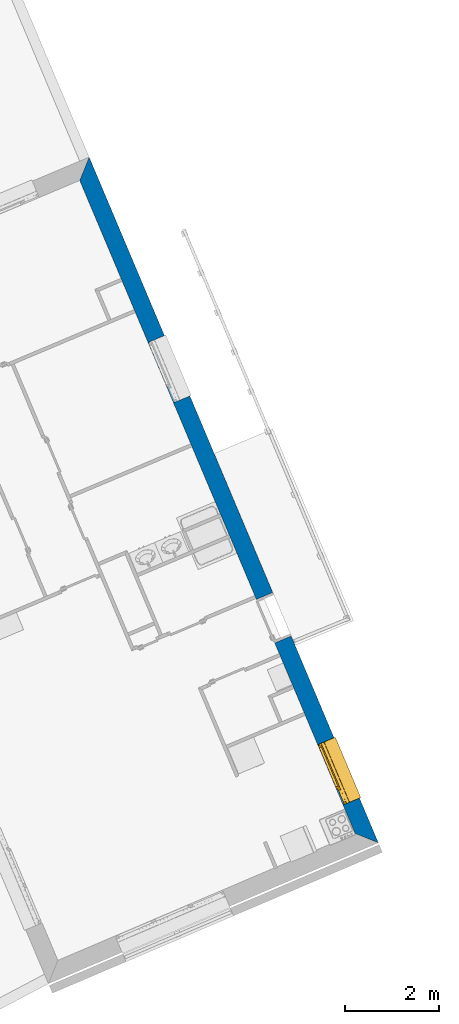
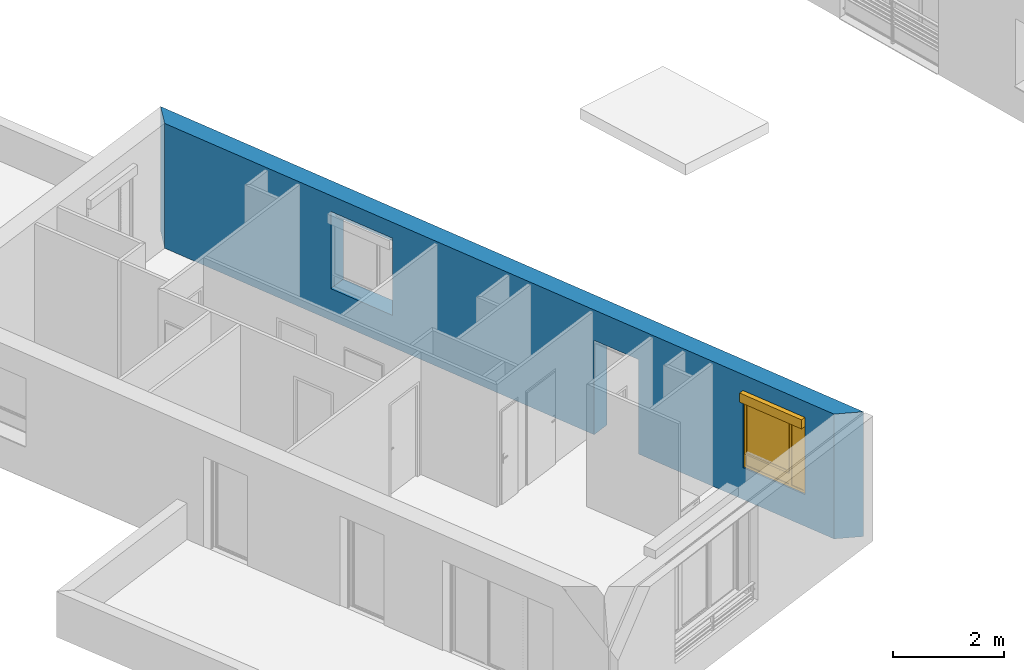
# One storey, part 35 of 121: 1 wall, 1 window, 3 openings.
"""IFC2X3 building model written with IfcOpenShell, lengths in metres."""

from ifc_helpers import new_model, entity, si_unit, converted_unit, derived_unit, money_unit, direction, frame, origin_with_axes, origin_2d_with_axis, place, context, subcontext, project, spatial, polyline, rectangle, outline, extrude, open_shell, faceted_brep, surface_model, source, transform, mapped, material, layer, layer_set, layer_usage, type_object, element, fill, save


model = new_model("IFC2X3")

# Units and contexts
model_context = context("Model", 3, precision=1e-05, world=origin_with_axes(), true_north=direction((0.0, 1.0)))
body_context = subcontext(model_context, "Body", "Model", "MODEL_VIEW")
ifc_project = project(units=[si_unit("LENGTHUNIT", "METRE"), si_unit("AREAUNIT", "SQUARE_METRE"), si_unit("VOLUMEUNIT", "CUBIC_METRE"), converted_unit("PLANEANGLEUNIT", "DEGREE", entity("IfcPlaneAngleMeasure", 0.0174532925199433), si_unit("PLANEANGLEUNIT", "RADIAN"), dimensions=[0, 0, 0, 0, 0, 0, 0]), money_unit("CHF"), converted_unit("TIMEUNIT", "Year", entity("IfcTimeMeasure", 31557600.0), si_unit("TIMEUNIT", "SECOND"), dimensions=[0, 0, 1, 0, 0, 0, 0]), si_unit("MASSUNIT", "GRAM", prefix="KILO"), si_unit("THERMODYNAMICTEMPERATUREUNIT", "DEGREE_CELSIUS"), si_unit("LUMINOUSINTENSITYUNIT", "LUMEN"), si_unit("ENERGYUNIT", "JOULE", prefix="MEGA"), derived_unit("THERMALCONDUCTANCEUNIT", [(si_unit("POWERUNIT", "WATT"), 1), (si_unit("LENGTHUNIT", "METRE"), -1), (si_unit("THERMODYNAMICTEMPERATUREUNIT", "KELVIN"), -1)]), derived_unit("SPECIFICHEATCAPACITYUNIT", [(si_unit("ENERGYUNIT", "JOULE"), 1), (si_unit("MASSUNIT", "GRAM", prefix="KILO"), -1), (si_unit("THERMODYNAMICTEMPERATUREUNIT", "KELVIN"), -1)]), derived_unit("MASSDENSITYUNIT", [(si_unit("MASSUNIT", "GRAM", prefix="KILO"), 1), (si_unit("VOLUMEUNIT", "CUBIC_METRE"), -1)])], contexts=[model_context])

# Site, building, storey
site_placement = place(None, origin_with_axes())
site = spatial("IfcSite", under=ifc_project, at=site_placement, Name="Site", CompositionType="ELEMENT")
building_placement = place(site_placement, origin_with_axes())
building = spatial("IfcBuilding", under=site, at=building_placement, Name="Bâtiment", CompositionType="ELEMENT")
storey_placement = place(building_placement, frame((0.0, 0.0, 2.75), z_axis=(0.0, 0.0, 1.0), x_axis=(1.0, 0.0, 0.0)))
storey = spatial("IfcBuildingStorey", under=building, at=storey_placement, Name="Etage 1", CompositionType="ELEMENT", Elevation=2.75)

# Wall, openings, window
ifc_material_1 = material(Name="Parpaing 312445824")
ifc_layer_1 = layer(ifc_material_1, 0.22, ventilated="UNKNOWN")
ifc_material_2 = material(Name="Isolant styromousse 301821074")
ifc_layer_2 = layer(ifc_material_2, 0.16, ventilated="UNKNOWN")
ifc_layer_set = layer_set([ifc_layer_1, ifc_layer_2], Name="isol int 22+16 0836643197")
ifc_layer_usage = layer_usage(ifc_layer_set, "AXIS2", "NEGATIVE", 0.0)
wall_type = type_object("IfcWallType", Name="isol int 22+16 0836643197 380", PredefinedType="NOTDEFINED")
wall_placement = place(storey_placement, frame((9572.789102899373, -1048.128803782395, 57.7), z_axis=(0.0, 0.0, 1.0), x_axis=(0.3885669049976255, -0.9214205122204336, 0.0)))
wall = element("IfcWallStandardCase", 1, at=wall_placement, inside=storey, type_object=wall_type, material=ifc_layer_usage, Name="Mur-113", context=body_context, shape_type="SweptSolid", body=[
    extrude(outline(polyline([(0.379999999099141, -0.3799999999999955), (15.53325516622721, -0.3799999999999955), (15.91155349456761, 0.0), (-9.952714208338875e-10, 0.0), (0.379999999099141, -0.3799999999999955)])), origin_with_axes(), (0.0, 0.0, 1.0), 2.75),
])
opening_1_placement = place(wall_placement, frame((14.17313174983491, 0.0, 0.7000000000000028), z_axis=(0.0, 0.0, 1.0), x_axis=(1.0, 0.0, 0.0)))
opening_1 = element("IfcOpeningElement", 2, at=opening_1_placement, cuts=wall, Name="Fen-045", context=body_context, shape_type="Brep", body=[
    faceted_brep([(-0.6999999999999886, -0.2199999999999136, 1.5), (0.7000000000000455, -0.2199999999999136, 1.5), (0.7000000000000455, 5.697869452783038, 1.5), (-0.6999999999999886, 5.697869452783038, 1.5), (-0.6999999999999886, -0.2199999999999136, 1.700000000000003), (0.7000000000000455, -0.2199999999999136, 1.700000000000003), (0.7000000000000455, -0.2999999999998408, 1.5), (0.7000000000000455, -0.2999999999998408, 0.0), (0.7000000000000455, 5.697869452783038, 0.0), (-0.6999999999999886, 5.697869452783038, 0.0), (-0.6999999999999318, -0.2999999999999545, 1.5), (-0.6999999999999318, -0.2999999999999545, 0.0), (-0.6999999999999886, -0.4799999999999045, 1.5), (-0.6999999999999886, -0.4799999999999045, 1.700000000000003), (0.7000000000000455, -0.4799999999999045, 1.700000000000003), (0.7000000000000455, -0.4799999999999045, 1.5), (0.7000000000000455, -6.077869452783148, 1.5), (0.7000000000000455, -6.077869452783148, 0.0), (-0.6999999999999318, -6.077869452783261, 0.0), (-0.6999999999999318, -6.077869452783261, 1.5)], [[[0, 1, 2, 3]], [[1, 0, 4, 5]], [[1, 6, 7, 8, 2]], [[2, 8, 9, 3]], [[10, 0, 3, 9, 11]], [[0, 10, 12, 13, 4]], [[14, 5, 4, 13]], [[6, 1, 5, 14, 15]], [[6, 15, 16, 17, 7]], [[7, 11, 9, 8]], [[12, 10, 11, 18, 19]], [[12, 15, 14, 13]], [[15, 12, 19, 16]], [[19, 18, 17, 16]], [[11, 7, 17, 18]]]),
])
opening_2_placement = place(wall_placement, frame((4.840910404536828, 0.0, 0.7000000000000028), z_axis=(0.0, 0.0, 1.0), x_axis=(1.0, 0.0, 0.0)))
element("IfcOpeningElement", 3, at=opening_2_placement, cuts=wall, Name="Fen-045", context=body_context, shape_type="Brep", body=[
    faceted_brep([(-0.6999999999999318, -0.2199999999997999, 1.5), (0.7000000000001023, -0.2199999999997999, 1.5), (0.7000000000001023, 5.697869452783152, 1.5), (-0.6999999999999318, 5.697869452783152, 1.5), (-0.6999999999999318, -0.2199999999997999, 1.700000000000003), (0.7000000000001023, -0.2199999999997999, 1.700000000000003), (0.7000000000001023, -0.2999999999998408, 1.5), (0.7000000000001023, -0.2999999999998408, 0.0), (0.7000000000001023, 5.697869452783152, 0.0), (-0.6999999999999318, 5.697869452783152, 0.0), (-0.6999999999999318, -0.2999999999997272, 1.5), (-0.6999999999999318, -0.2999999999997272, 0.0), (-0.6999999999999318, -0.4799999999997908, 1.5), (-0.6999999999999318, -0.4799999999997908, 1.700000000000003), (0.7000000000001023, -0.4799999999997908, 1.700000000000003), (0.7000000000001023, -0.4799999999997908, 1.5), (0.7000000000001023, -6.07786945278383, 1.5), (0.7000000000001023, -6.07786945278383, 0.0), (-0.6999999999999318, -6.077869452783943, 0.0), (-0.6999999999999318, -6.077869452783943, 1.5)], [[[0, 1, 2, 3]], [[1, 0, 4, 5]], [[1, 6, 7, 8, 2]], [[2, 8, 9, 3]], [[10, 0, 3, 9, 11]], [[0, 10, 12, 13, 4]], [[14, 5, 4, 13]], [[6, 1, 5, 14, 15]], [[6, 15, 16, 17, 7]], [[7, 11, 9, 8]], [[12, 10, 11, 18, 19]], [[12, 15, 14, 13]], [[15, 12, 19, 16]], [[19, 18, 17, 16]], [[11, 7, 17, 18]]]),
])
opening_3_placement = place(wall_placement, frame((10.60770232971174, 0.0, 0.0), z_axis=(0.0, 0.0, 1.0), x_axis=(1.0, 0.0, 0.0)))
element("IfcOpeningElement", 4, at=opening_3_placement, cuts=wall, Name="Por-299", context=body_context, shape_type="SweptSolid", body=[
    extrude(rectangle(XDim=1.01000001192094, YDim=2.079999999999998, at=origin_2d_with_axis()), frame((-5.960430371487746e-09, 0.3799999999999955, 1.039999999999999), z_axis=(0.0, -1.0, 0.0), x_axis=(-1.0, 0.0, 0.0)), (0.0, 0.0, 1.0), 0.76),
])
window_style = type_object("IfcWindowStyle", Name="Fenêtre variable 27", ConstructionType="NOTDEFINED", OperationType="TRIPLE_PANEL_LEFT", ParameterTakesPrecedence=False, Sizeable=False)
shared_shape = source(origin_with_axes(), body_context, "Body", "SurfaceModel", [
    surface_model("IfcShellBasedSurfaceModel", [(0.7, -0.05100000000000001, 0.05), (-0.7, -0.05100000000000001, 0.05000000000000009), (-0.7, -0.05100000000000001, 0.04000000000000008), (0.7, -0.05100000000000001, 0.04), (-0.7, -0.3799999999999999, 0.02900000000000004), (0.7, -0.3799999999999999, 0.02899999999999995), (-0.7, -0.3799999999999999, 0.00900000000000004), (0.7, -0.3799999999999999, 0.008999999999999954), (-0.7, -0.3699999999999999, 0.01900000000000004), (0.7, -0.3699999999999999, 0.01899999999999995)], [open_shell([[[0, 1, 2, 3]], [[3, 2, 4, 5]], [[5, 4, 6, 7]], [[7, 6, 8, 9]]])]),
    faceted_brep([(0.7, -0.13, 1.7), (0.7, 0.13, 1.7), (0.697, 0.13, 1.7), (0.697, -0.13, 1.7), (0.7, -0.13, 1.5), (0.7, 0.13, 1.5), (0.697, 0.13, 1.5), (0.697, -0.13, 1.5)], [[[0, 1, 2, 3]], [[0, 4, 5, 1]], [[1, 5, 6, 2]], [[3, 2, 6, 7]], [[4, 0, 3, 7]], [[5, 4, 7, 6]]]),
    faceted_brep([(-0.6970000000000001, -0.1299999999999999, 1.7), (-0.6970000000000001, 0.1300000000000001, 1.7), (-0.7000000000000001, 0.1300000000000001, 1.7), (-0.7000000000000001, -0.1299999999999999, 1.7), (-0.6970000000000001, -0.1299999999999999, 1.5), (-0.6970000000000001, 0.1300000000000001, 1.5), (-0.7000000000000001, 0.1300000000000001, 1.5), (-0.7000000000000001, -0.1299999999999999, 1.5)], [[[0, 1, 2, 3]], [[0, 4, 5, 1]], [[1, 5, 6, 2]], [[3, 2, 6, 7]], [[4, 0, 3, 7]], [[5, 4, 7, 6]]]),
    faceted_brep([(0.697, -0.13, 1.5), (0.697, -0.13, 1.7), (-0.697, -0.1299999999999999, 1.7), (-0.697, -0.1299999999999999, 1.5), (0.697, -0.127, 1.5), (0.697, -0.127, 1.697), (0.697, 0.127, 1.697), (0.697, 0.127, 1.503), (0.697, -0.108, 1.503), (0.697, -0.108, 1.5), (0.697, 0.13, 1.5), (0.697, 0.13, 1.7), (-0.697, 0.1300000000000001, 1.7), (-0.697, 0.1300000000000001, 1.5), (-0.697, -0.1079999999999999, 1.5), (-0.697, -0.1079999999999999, 1.503), (-0.697, 0.1270000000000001, 1.503), (-0.697, 0.1270000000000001, 1.697), (-0.697, -0.1269999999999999, 1.697), (-0.697, -0.1269999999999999, 1.5)], [[[0, 1, 2, 3]], [[0, 4, 5, 6, 7, 8, 9, 10, 11, 1]], [[1, 11, 12, 2]], [[3, 2, 12, 13, 14, 15, 16, 17, 18, 19]], [[4, 0, 3, 19]], [[5, 4, 19, 18]], [[6, 5, 18, 17]], [[7, 6, 17, 16]], [[8, 7, 16, 15]], [[9, 8, 15, 14]], [[10, 9, 14, 13]], [[11, 10, 13, 12]]]),
    faceted_brep([(0.694, -0.08075423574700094, 1.585760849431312), (0.694, -0.07705479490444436, 1.571954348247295), (0.694, -0.07101408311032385, 1.559), (0.694, -0.06281564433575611, 1.547291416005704), (0.694, -0.05270858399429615, 1.537184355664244), (0.694, -0.04099999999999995, 1.528985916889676), (0.694, -0.02804565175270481, 1.522945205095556), (0.694, -0.01423915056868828, 1.519245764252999), (0.694, 0.0, 1.518), (0.694, 0.01423915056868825, 1.519245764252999), (0.694, 0.02804565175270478, 1.522945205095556), (0.694, 0.04099999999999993, 1.528985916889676), (0.694, 0.05270858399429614, 1.537184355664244), (0.694, 0.06281564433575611, 1.547291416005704), (0.694, 0.07101408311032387, 1.559), (0.694, 0.07705479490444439, 1.571954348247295), (0.694, 0.08075423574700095, 1.585760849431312), (0.694, 0.0819999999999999, 1.6), (0.694, 0.08075423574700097, 1.614239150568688), (0.694, 0.0770547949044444, 1.628045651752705), (0.694, 0.07101408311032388, 1.641), (0.694, 0.06281564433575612, 1.652708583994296), (0.694, 0.05270858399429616, 1.662815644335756), (0.694, 0.04099999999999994, 1.671014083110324), (0.694, 0.02804565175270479, 1.677054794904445), (0.694, 0.01423915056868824, 1.680754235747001), (0.694, 0.0, 1.682), (0.694, -0.01423915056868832, 1.680754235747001), (0.694, -0.02804565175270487, 1.677054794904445), (0.694, -0.04100000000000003, 1.671014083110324), (0.694, -0.05270858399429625, 1.662815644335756), (0.694, -0.06281564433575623, 1.652708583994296), (0.694, -0.07101408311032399, 1.641), (0.694, -0.07705479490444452, 1.628045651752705), (0.694, -0.0807542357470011, 1.614239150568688), (0.694, -0.08200000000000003, 1.6), (-0.694, -0.08075423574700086, 1.585760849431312), (-0.694, -0.07705479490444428, 1.571954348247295), (-0.694, -0.07101408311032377, 1.559), (-0.694, -0.06281564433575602, 1.547291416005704), (-0.694, -0.05270858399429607, 1.537184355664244), (-0.694, -0.04099999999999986, 1.528985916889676), (-0.694, -0.02804565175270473, 1.522945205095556), (-0.694, -0.0142391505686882, 1.519245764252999), (-0.694, 0.0, 1.518), (-0.694, 0.01423915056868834, 1.519245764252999), (-0.694, 0.02804565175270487, 1.522945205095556), (-0.694, 0.04100000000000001, 1.528985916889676), (-0.694, 0.05270858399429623, 1.537184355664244), (-0.694, 0.06281564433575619, 1.547291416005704), (-0.694, 0.07101408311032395, 1.559), (-0.694, 0.07705479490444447, 1.571954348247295), (-0.694, 0.08075423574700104, 1.585760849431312), (-0.694, 0.08199999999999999, 1.6), (-0.694, 0.08075423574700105, 1.614239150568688), (-0.694, 0.07705479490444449, 1.628045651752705), (-0.694, 0.07101408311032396, 1.641), (-0.694, 0.0628156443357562, 1.652708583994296), (-0.694, 0.05270858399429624, 1.662815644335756), (-0.694, 0.04100000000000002, 1.671014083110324), (-0.694, 0.02804565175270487, 1.677054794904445), (-0.694, 0.01423915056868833, 1.680754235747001), (-0.694, 0.0, 1.682), (-0.694, -0.01423915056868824, 1.680754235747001), (-0.694, -0.02804565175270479, 1.677054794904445), (-0.694, -0.04099999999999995, 1.671014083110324), (-0.694, -0.05270858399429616, 1.662815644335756), (-0.694, -0.06281564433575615, 1.652708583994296), (-0.694, -0.07101408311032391, 1.641), (-0.694, -0.07705479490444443, 1.628045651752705), (-0.694, -0.08075423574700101, 1.614239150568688), (-0.694, -0.08199999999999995, 1.6)], [[[0, 1, 2, 3, 4, 5, 6, 7, 8, 9, 10, 11, 12, 13, 14, 15, 16, 17, 18, 19, 20, 21, 22, 23, 24, 25, 26, 27, 28, 29, 30, 31, 32, 33, 34, 35]], [[1, 0, 36, 37]], [[2, 1, 37, 38]], [[3, 2, 38, 39]], [[4, 3, 39, 40]], [[5, 4, 40, 41]], [[6, 5, 41, 42]], [[7, 6, 42, 43]], [[8, 7, 43, 44]], [[9, 8, 44, 45]], [[10, 9, 45, 46]], [[11, 10, 46, 47]], [[12, 11, 47, 48]], [[13, 12, 48, 49]], [[14, 13, 49, 50]], [[15, 14, 50, 51]], [[16, 15, 51, 52]], [[17, 16, 52, 53]], [[18, 17, 53, 54]], [[19, 18, 54, 55]], [[20, 19, 55, 56]], [[21, 20, 56, 57]], [[22, 21, 57, 58]], [[23, 22, 58, 59]], [[24, 23, 59, 60]], [[25, 24, 60, 61]], [[26, 25, 61, 62]], [[27, 26, 62, 63]], [[28, 27, 63, 64]], [[29, 28, 64, 65]], [[30, 29, 65, 66]], [[31, 30, 66, 67]], [[32, 31, 67, 68]], [[33, 32, 68, 69]], [[34, 33, 69, 70]], [[35, 34, 70, 71]], [[0, 35, 71, 36]], [[36, 71, 70, 69, 68, 67, 66, 65, 64, 63, 62, 61, 60, 59, 58, 57, 56, 55, 54, 53, 52, 51, 50, 49, 48, 47, 46, 45, 44, 43, 42, 41, 40, 39, 38, 37]]]),
    faceted_brep([(-0.7, -0.105, 0.03), (-0.7, -0.13, 0.03), (-0.7, -0.1299999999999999, 1.5), (-0.7, -0.1049999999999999, 1.5), (-0.6749999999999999, -0.105, 0.03), (-0.6749999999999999, -0.108, 0.03), (-0.697, -0.108, 0.03), (-0.697, -0.127, 0.03), (-0.6749999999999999, -0.127, 0.03), (-0.6749999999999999, -0.13, 0.03), (-0.6749999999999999, -0.1299999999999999, 1.5), (-0.6749999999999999, -0.1269999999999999, 1.5), (-0.697, -0.1269999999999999, 1.5), (-0.697, -0.1079999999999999, 1.5), (-0.6749999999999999, -0.1079999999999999, 1.5), (-0.6749999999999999, -0.1049999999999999, 1.5)], [[[0, 1, 2, 3]], [[0, 4, 5, 6, 7, 8, 9, 1]], [[1, 9, 10, 2]], [[3, 2, 10, 11, 12, 13, 14, 15]], [[4, 0, 3, 15]], [[5, 4, 15, 14]], [[6, 5, 14, 13]], [[7, 6, 13, 12]], [[8, 7, 12, 11]], [[9, 8, 11, 10]]]),
    faceted_brep([(0.7, -0.105, 0.03), (0.7, -0.1049999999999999, 1.5), (0.7, -0.1299999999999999, 1.5), (0.7, -0.13, 0.03), (0.6749999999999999, -0.105, 0.03), (0.6749999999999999, -0.1049999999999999, 1.5), (0.6749999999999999, -0.1079999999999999, 1.5), (0.697, -0.1079999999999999, 1.5), (0.697, -0.1269999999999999, 1.5), (0.6749999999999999, -0.1269999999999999, 1.5), (0.6749999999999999, -0.1299999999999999, 1.5), (0.6749999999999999, -0.13, 0.03), (0.6749999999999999, -0.127, 0.03), (0.697, -0.127, 0.03), (0.697, -0.108, 0.03), (0.6749999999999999, -0.108, 0.03)], [[[0, 1, 2, 3]], [[4, 5, 1, 0]], [[1, 5, 6, 7, 8, 9, 10, 2]], [[3, 2, 10, 11]], [[0, 3, 11, 12, 13, 14, 15, 4]], [[15, 6, 5, 4]], [[14, 7, 6, 15]], [[13, 8, 7, 14]], [[12, 9, 8, 13]], [[11, 10, 9, 12]]]),
    surface_model("IfcShellBasedSurfaceModel", [(0.697, -0.115, 1.6), (-0.697, -0.1149999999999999, 1.6), (-0.697, -0.12, 1.6), (0.697, -0.12, 1.6), (0.697, -0.115, 1.6), (0.697, -0.12, 1.6), (-0.697, -0.1199999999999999, 1.6), (-0.697, -0.1149999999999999, 1.6)], [open_shell([[[0, 1, 2, 3]], [[4, 5, 6, 7]]])]),
    faceted_brep([(0.697, -0.115, 1.6), (0.697, -0.1166666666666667, 1.583333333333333), (-0.697, -0.1166666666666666, 1.583333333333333), (-0.697, -0.1149999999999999, 1.6), (0.697, -0.12, 1.6), (0.697, -0.1216666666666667, 1.583333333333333), (0.697, -0.1216666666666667, 1.566666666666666), (0.697, -0.12, 1.55), (0.697, -0.115, 1.55), (0.697, -0.1166666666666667, 1.566666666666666), (-0.697, -0.1166666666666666, 1.566666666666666), (-0.697, -0.1149999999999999, 1.55), (-0.697, -0.1199999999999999, 1.55), (-0.697, -0.1216666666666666, 1.566666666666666), (-0.697, -0.1216666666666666, 1.583333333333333), (-0.697, -0.1199999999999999, 1.6)], [[[0, 1, 2, 3]], [[0, 4, 5, 6, 7, 8, 9, 1]], [[1, 9, 10, 2]], [[3, 2, 10, 11, 12, 13, 14, 15]], [[4, 0, 3, 15]], [[5, 4, 15, 14]], [[6, 5, 14, 13]], [[7, 6, 13, 12]], [[8, 7, 12, 11]], [[9, 8, 11, 10]]]),
    faceted_brep([(0.697, -0.115, 1.55), (0.697, -0.1166666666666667, 1.533333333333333), (-0.697, -0.1166666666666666, 1.533333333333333), (-0.697, -0.1149999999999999, 1.55), (0.697, -0.12, 1.55), (0.697, -0.1216666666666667, 1.533333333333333), (0.697, -0.1216666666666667, 1.516666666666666), (0.697, -0.12, 1.5), (0.697, -0.115, 1.5), (0.697, -0.1166666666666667, 1.516666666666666), (-0.697, -0.1166666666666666, 1.516666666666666), (-0.697, -0.1149999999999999, 1.5), (-0.697, -0.1199999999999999, 1.5), (-0.697, -0.1216666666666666, 1.516666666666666), (-0.697, -0.1216666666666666, 1.533333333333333), (-0.697, -0.1199999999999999, 1.55)], [[[0, 1, 2, 3]], [[0, 4, 5, 6, 7, 8, 9, 1]], [[1, 9, 10, 2]], [[3, 2, 10, 11, 12, 13, 14, 15]], [[4, 0, 3, 15]], [[5, 4, 15, 14]], [[6, 5, 14, 13]], [[7, 6, 13, 12]], [[8, 7, 12, 11]], [[9, 8, 11, 10]]]),
    faceted_brep([(0.6749999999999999, 0.0, 1.45), (0.6749999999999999, -0.02500000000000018, 1.45), (0.6499999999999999, -0.02500000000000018, 1.45), (0.6499999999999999, -0.05000000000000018, 1.45), (0.7, -0.05000000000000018, 1.45), (0.7, 0.0, 1.45), (0.6749999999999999, 0.0, 0.3099999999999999), (0.6749999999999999, -0.02500000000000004, 0.3099999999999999), (0.6499999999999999, -0.02500000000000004, 0.335), (0.6499999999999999, -0.02500000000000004, 0.3099999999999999), (0.6499999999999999, -0.05000000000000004, 0.335), (0.6499999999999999, -0.05000000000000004, 0.265), (0.6499999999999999, -0.05000000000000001, 0.05000000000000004), (0.7, -0.05000000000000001, 0.05000000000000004), (0.7, 0.0, 0.05000000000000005), (0.6499999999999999, 0.0, 0.05000000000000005), (0.6499999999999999, 0.0, 0.265), (0.6499999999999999, 0.0, 0.3099999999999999)], [[[0, 1, 2, 3, 4, 5]], [[1, 0, 6, 7]], [[8, 2, 1, 7, 9]], [[2, 8, 10, 3]], [[10, 11, 12, 13, 4, 3]], [[5, 4, 13, 14]], [[6, 0, 5, 14, 15, 16, 17]], [[6, 17, 9, 7]], [[9, 17, 16, 11, 10, 8]], [[15, 12, 11, 16]], [[14, 13, 12, 15]]]),
    faceted_brep([(-0.3068894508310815, -0.02500000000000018, 1.45), (-0.3318894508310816, -0.02500000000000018, 1.45), (-0.3318894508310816, 0.0, 1.45), (-0.3768894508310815, 0.0, 1.45), (-0.3768894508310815, -0.05000000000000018, 1.45), (-0.3068894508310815, -0.05000000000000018, 1.45), (-0.3068894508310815, -0.02500000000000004, 0.335), (-0.3068894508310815, -0.02500000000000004, 0.3099999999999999), (-0.3318894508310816, -0.02500000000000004, 0.3099999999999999), (-0.3318894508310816, 0.0, 0.3099999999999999), (-0.3068894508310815, 0.0, 0.3099999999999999), (-0.3068894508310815, 0.0, 0.265), (-0.3068894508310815, 0.0, 0.05000000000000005), (-0.3768894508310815, 0.0, 0.05000000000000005), (-0.3768894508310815, -0.05000000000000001, 0.05000000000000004), (-0.3068894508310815, -0.05000000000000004, 0.265), (-0.3068894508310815, -0.05000000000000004, 0.335), (-0.3068894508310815, -0.05000000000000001, 0.05000000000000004)], [[[0, 1, 2, 3, 4, 5]], [[1, 0, 6, 7, 8]], [[9, 2, 1, 8]], [[9, 10, 11, 12, 13, 3, 2]], [[13, 14, 4, 3]], [[15, 16, 5, 4, 14, 17]], [[6, 0, 5, 16]], [[7, 6, 16, 15, 11, 10]], [[10, 9, 8, 7]], [[11, 15, 17, 12]], [[12, 17, 14, 13]]]),
    faceted_brep([(0.6499999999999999, -0.02500000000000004, 0.335), (-0.3068894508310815, -0.02500000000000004, 0.335), (-0.3068894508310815, -0.05000000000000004, 0.335), (0.6499999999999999, -0.05000000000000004, 0.335), (-0.3068894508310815, -0.02500000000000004, 0.3099999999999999), (0.6499999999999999, -0.02500000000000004, 0.3099999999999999), (-0.3068894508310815, 0.0, 0.3099999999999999), (-0.3068894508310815, 0.0, 0.265), (-0.3068894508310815, -0.05000000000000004, 0.265), (0.6499999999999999, -0.05000000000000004, 0.265), (0.6499999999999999, 0.0, 0.265), (0.6499999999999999, 0.0, 0.3099999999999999)], [[[0, 1, 2, 3]], [[4, 1, 0, 5]], [[4, 6, 7, 8, 2, 1]], [[2, 8, 9, 3]], [[5, 0, 3, 9, 10, 11]], [[11, 6, 4, 5]], [[6, 11, 10, 7]], [[10, 9, 8, 7]]]),
    faceted_brep([(0.6749999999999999, 0.0, 1.45), (0.6749999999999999, 0.0, 1.475), (-0.3318894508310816, 0.0, 1.475), (-0.3318894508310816, 0.0, 1.45), (-0.3768894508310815, 0.0, 1.45), (-0.6499999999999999, 0.0, 1.45), (-0.7, 0.0, 1.45), (-0.7, 0.0, 1.5), (0.7, 0.0, 1.5), (0.7, 0.0, 1.45), (0.6749999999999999, -0.02500000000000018, 1.45), (0.6749999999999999, -0.02500000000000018, 1.475), (-0.3318894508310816, -0.02500000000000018, 1.475), (-0.3318894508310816, -0.02500000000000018, 1.45), (-0.3068894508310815, -0.02500000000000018, 1.45), (-0.3068894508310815, -0.05000000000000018, 1.45), (-0.3768894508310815, -0.05000000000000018, 1.45), (-0.6499999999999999, -0.05000000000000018, 1.45), (-0.7, -0.05000000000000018, 1.45), (-0.7, -0.05000000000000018, 1.5), (0.7, -0.05000000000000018, 1.5), (0.7, -0.05000000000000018, 1.45), (0.6499999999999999, -0.05000000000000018, 1.45), (0.6499999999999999, -0.02500000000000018, 1.45)], [[[0, 1, 2, 3, 4, 5, 6, 7, 8, 9]], [[1, 0, 10, 11]], [[2, 1, 11, 12]], [[3, 2, 12, 13]], [[13, 14, 15, 16, 4, 3]], [[4, 16, 17, 5]], [[5, 17, 18, 6]], [[6, 18, 19, 7]], [[7, 19, 20, 8]], [[8, 20, 21, 9]], [[10, 0, 9, 21, 22, 23]], [[14, 13, 12, 11, 10, 23]], [[14, 23, 22, 15]], [[16, 15, 22, 21, 20, 19, 18, 17]]]),
    faceted_brep([(-0.6499999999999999, -0.05000000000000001, 0.05), (-0.7, -0.05000000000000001, 0.05), (-0.7, 0.0, 0.05000000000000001), (-0.6499999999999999, 0.0, 0.05000000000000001), (-0.6499999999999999, -0.05000000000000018, 1.45), (-0.7, -0.05000000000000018, 1.45), (-0.7, 0.0, 1.45), (-0.6499999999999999, 0.0, 1.45)], [[[0, 1, 2, 3]], [[0, 4, 5, 1]], [[1, 5, 6, 2]], [[3, 2, 6, 7]], [[4, 0, 3, 7]], [[5, 4, 7, 6]]]),
    faceted_brep([(0.6499999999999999, -0.05000000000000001, 0.05), (0.7, -0.05000000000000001, 0.05), (0.7, 0.0, 0.05000000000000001), (0.6499999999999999, 0.0, 0.05000000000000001), (-0.3068894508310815, -0.05000000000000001, 0.05), (-0.3768894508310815, -0.05000000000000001, 0.05), (-0.6499999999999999, -0.05000000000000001, 0.05), (-0.7, -0.05000000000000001, 0.05), (-0.7, -0.05, 0.0), (0.7, -0.05, 0.0), (0.7, 0.0, 0.0), (-0.7, 0.0, 0.0), (-0.7, 0.0, 0.05000000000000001), (-0.6499999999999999, 0.0, 0.05000000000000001), (-0.3768894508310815, 0.0, 0.05000000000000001), (-0.3068894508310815, 0.0, 0.05000000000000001)], [[[0, 1, 2, 3]], [[0, 4, 5, 6, 7, 8, 9, 1]], [[1, 9, 10, 2]], [[3, 2, 10, 11, 12, 13, 14, 15]], [[4, 0, 3, 15]], [[5, 4, 15, 14]], [[6, 5, 14, 13]], [[7, 6, 13, 12]], [[8, 7, 12, 11]], [[9, 8, 11, 10]]]),
    faceted_brep([(0.625, -0.02500000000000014, 1.425), (0.6749999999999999, -0.02500000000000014, 1.425), (0.6749999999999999, 0.02499999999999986, 1.425), (0.625, 0.02499999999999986, 1.425), (0.625, -0.02500000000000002, 0.3599999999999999), (0.6749999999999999, -0.02500000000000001, 0.3599999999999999), (0.6749999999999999, 0.02499999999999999, 0.3599999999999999), (0.625, 0.02499999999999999, 0.3599999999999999)], [[[0, 1, 2, 3]], [[0, 4, 5, 1]], [[1, 5, 6, 2]], [[3, 2, 6, 7]], [[4, 0, 3, 7]], [[5, 4, 7, 6]]]),
    faceted_brep([(-0.2818894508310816, -0.02500000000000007, 0.3599999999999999), (-0.3318894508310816, -0.02500000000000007, 0.3599999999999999), (-0.3318894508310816, 0.02499999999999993, 0.3599999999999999), (-0.2818894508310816, 0.02499999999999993, 0.3599999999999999), (-0.2818894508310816, -0.0250000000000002, 1.425), (-0.3318894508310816, -0.0250000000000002, 1.425), (-0.3318894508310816, 0.0249999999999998, 1.425), (-0.2818894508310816, 0.0249999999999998, 1.425)], [[[0, 1, 2, 3]], [[0, 4, 5, 1]], [[1, 5, 6, 2]], [[3, 2, 6, 7]], [[4, 0, 3, 7]], [[5, 4, 7, 6]]]),
    faceted_brep([(-0.3318894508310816, -0.02500000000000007, 0.3099999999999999), (-0.3318894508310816, -0.02500000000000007, 0.3599999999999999), (-0.3318894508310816, 0.02499999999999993, 0.3599999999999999), (-0.3318894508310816, 0.02499999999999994, 0.3099999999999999), (0.6749999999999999, -0.025, 0.3099999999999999), (0.6749999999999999, -0.02500000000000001, 0.3599999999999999), (0.625, -0.02500000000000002, 0.3599999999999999), (-0.2818894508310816, -0.02500000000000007, 0.3599999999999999), (-0.2818894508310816, 0.02499999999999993, 0.3599999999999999), (0.625, 0.02499999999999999, 0.3599999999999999), (0.6749999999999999, 0.02499999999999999, 0.3599999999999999), (0.6749999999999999, 0.02499999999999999, 0.3099999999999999)], [[[0, 1, 2, 3]], [[0, 4, 5, 6, 7, 1]], [[1, 7, 8, 2]], [[3, 2, 8, 9, 10, 11]], [[4, 0, 3, 11]], [[5, 4, 11, 10]], [[6, 5, 10, 9]], [[7, 6, 9, 8]]]),
    faceted_brep([(0.6749999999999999, -0.02500000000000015, 1.475), (0.6749999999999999, -0.02500000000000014, 1.425), (0.6749999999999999, 0.02499999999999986, 1.425), (0.6749999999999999, 0.02499999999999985, 1.475), (-0.3318894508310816, -0.02500000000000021, 1.475), (-0.3318894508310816, -0.0250000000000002, 1.425), (-0.2818894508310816, -0.0250000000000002, 1.425), (0.625, -0.02500000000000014, 1.425), (0.625, 0.02499999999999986, 1.425), (-0.2818894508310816, 0.0249999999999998, 1.425), (-0.3318894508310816, 0.0249999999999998, 1.425), (-0.3318894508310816, 0.02499999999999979, 1.475)], [[[0, 1, 2, 3]], [[0, 4, 5, 6, 7, 1]], [[1, 7, 8, 2]], [[3, 2, 8, 9, 10, 11]], [[4, 0, 3, 11]], [[5, 4, 11, 10]], [[6, 5, 10, 9]], [[7, 6, 9, 8]]]),
    surface_model("IfcShellBasedSurfaceModel", [(0.625, -0.01000000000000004, 0.3599999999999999), (0.625, -0.01000000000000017, 1.425), (-0.2818894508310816, -0.01000000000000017, 1.425), (-0.2818894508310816, -0.01000000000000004, 0.3599999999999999)], [open_shell([[[0, 1, 2, 3]]])]),
    surface_model("IfcShellBasedSurfaceModel", [(0.625, 0.009999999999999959, 0.3599999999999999), (-0.2818894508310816, 0.009999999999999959, 0.3599999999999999), (-0.2818894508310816, 0.00999999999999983, 1.425), (0.625, 0.00999999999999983, 1.425)], [open_shell([[[0, 1, 2, 3]]])]),
    surface_model("IfcShellBasedSurfaceModel", [(-0.3768894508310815, -0.035, 0.05), (-0.3768894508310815, -0.03500000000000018, 1.45), (-0.65, -0.03500000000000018, 1.45), (-0.65, -0.035, 0.05)], [open_shell([[[0, 1, 2, 3]]])]),
    surface_model("IfcShellBasedSurfaceModel", [(-0.3768894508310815, -0.015, 0.05), (-0.65, -0.015, 0.05), (-0.65, -0.01500000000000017, 1.45), (-0.3768894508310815, -0.01500000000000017, 1.45)], [open_shell([[[0, 1, 2, 3]]])]),
    surface_model("IfcShellBasedSurfaceModel", [(0.6499999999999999, -0.035, 0.05), (0.6499999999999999, -0.03500000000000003, 0.265), (-0.3068894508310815, -0.03500000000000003, 0.265), (-0.3068894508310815, -0.035, 0.05)], [open_shell([[[0, 1, 2, 3]]])]),
    surface_model("IfcShellBasedSurfaceModel", [(0.6499999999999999, -0.015, 0.05), (-0.3068894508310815, -0.015, 0.05), (-0.3068894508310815, -0.01500000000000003, 0.265), (0.6499999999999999, -0.01500000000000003, 0.265)], [open_shell([[[0, 1, 2, 3]]])]),
])
window_placement = place(opening_1_placement, frame((0.6999999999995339, 0.0, 0.0), z_axis=(0.0, 0.0, 1.0), x_axis=(-1.0, 0.0, 0.0)))
window = element("IfcWindow", 5, at=window_placement, inside=storey, type_object=window_style, Name="Fen-045", OverallHeight=1.5, OverallWidth=1.4, context=body_context, shape_type="MappedRepresentation", body=[
    mapped(shared_shape, transform((0.6999999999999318, 0.3499999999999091, 0.0))),
])
fill(opening_1, window)

save(model, "model.ifc")
